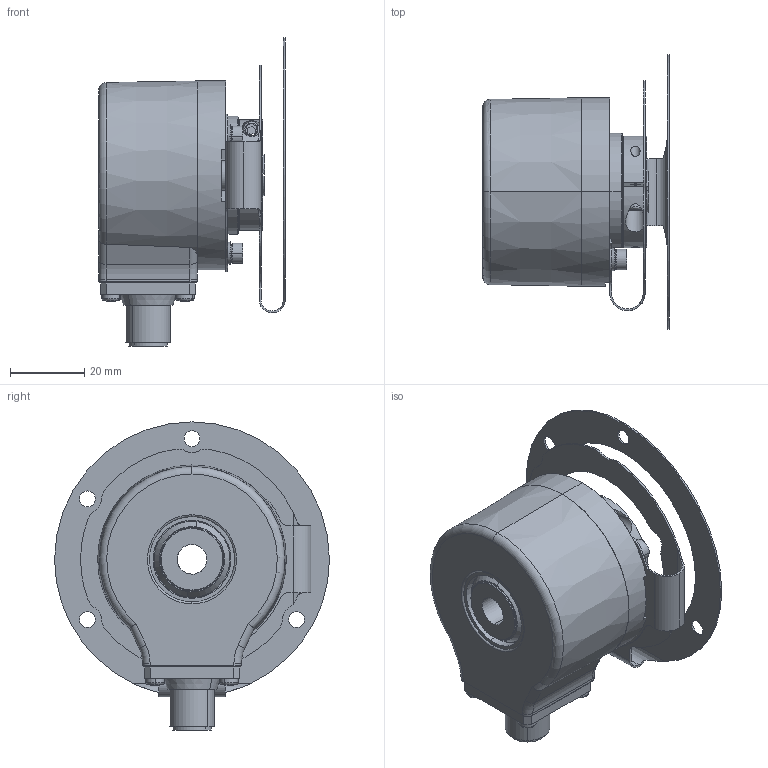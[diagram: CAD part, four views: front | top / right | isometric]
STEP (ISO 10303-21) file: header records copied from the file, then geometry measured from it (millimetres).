
FILE_DESCRIPTION (( 'STEP AP214' ), '1' );
FILE_NAME ('8.5020.89X2.XXXX.STEP', '2011-01-10T09:51:19', ( 'admin' ), ( 'Fritz Kübler GmbH' ), 'SwSTEP 2.0', 'SolidWorks 2009', '' );
FILE_SCHEMA (( 'AUTOMOTIVE_DESIGN' ));
Length unit declared in the file: millimetre
Products named in the file (1): 8.5020.89X2.XXXX
Bounding box: 50.2 x 74 x 83 mm (x, y, z)
Surface area: 25114.6 mm2 (no closed solid volume)
Topology: 0 solids, 26 shells, 364 faces, 1074 edges, 718 vertices
Faces by surface type: cylinder 149, plane 125, cone 40, sphere 24, torus 22, bspline 4
Entity records: 16416 total; most frequent: CARTESIAN_POINT 2722, DIRECTION 2164, ORIENTED_EDGE 1831, EDGE_CURVE 1038, AXIS2_PLACEMENT_3D 850, VERTEX_POINT 702, CIRCLE 489, VECTOR 464
